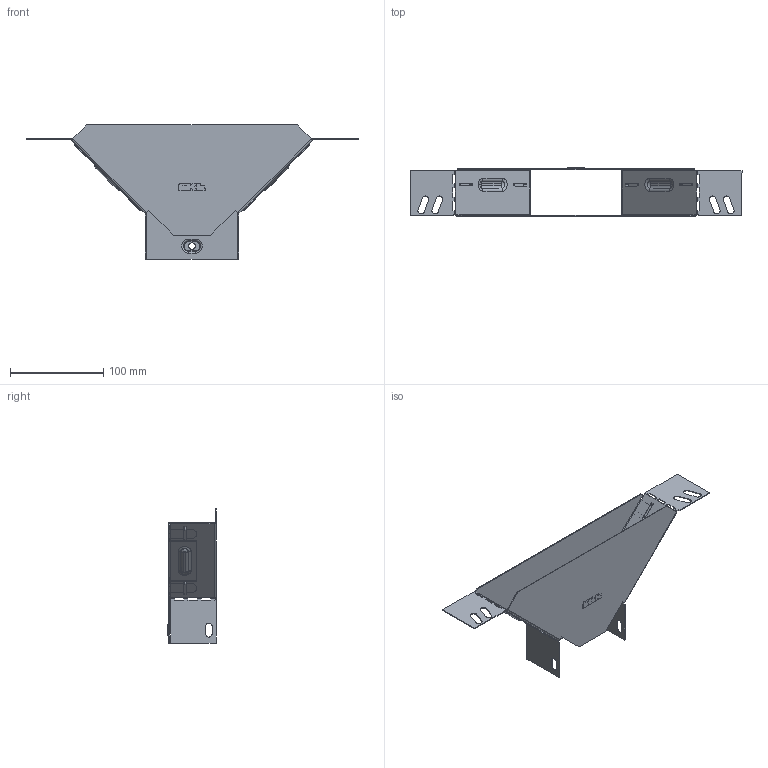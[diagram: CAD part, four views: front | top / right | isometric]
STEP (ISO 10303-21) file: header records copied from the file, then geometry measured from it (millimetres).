
FILE_DESCRIPTION (( 'STEP AP214' ), '1' );
FILE_NAME ('tn5010008_捘.STEP', '2019-06-10T07:57:35', ( '砐錪賧瘔蠈錪 Windows' ), ( '' ), 'SwSTEP 2.0', 'SolidWorks 2018', '' );
FILE_SCHEMA (( 'AUTOMOTIVE_DESIGN' ));
Length unit declared in the file: millimetre
Products named in the file (1): tn5010008_捘
Bounding box: 356.02 x 52.4 x 144 mm (x, y, z)
Volume: 50497 mm3; surface area: 128749.2 mm2
Topology: 2 solids, 2 shells, 552 faces, 1538 edges, 980 vertices
Faces by surface type: plane 342, cylinder 152, torus 40, bspline 18
Entity records: 18481 total; most frequent: CARTESIAN_POINT 4029, ORIENTED_EDGE 3076, DIRECTION 2936, EDGE_CURVE 1538, LINE 1138, VECTOR 1138, VERTEX_POINT 980, AXIS2_PLACEMENT_3D 899
